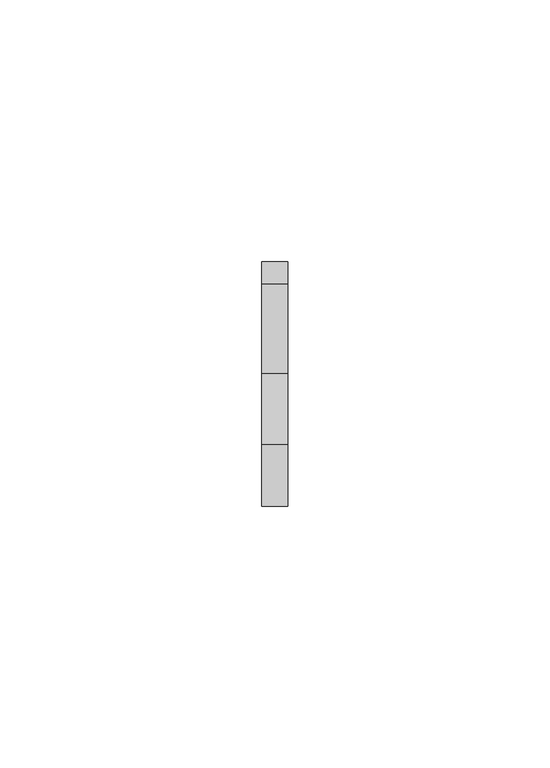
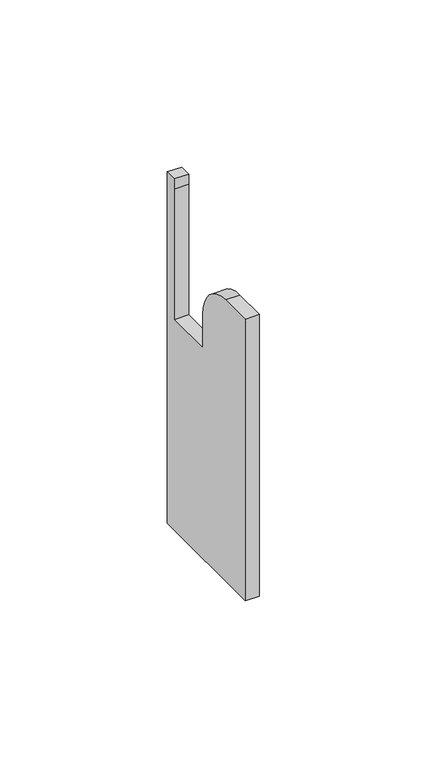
"""IFC4 building model written with IfcOpenShell, lengths in millimetres: proxy geometry, Odbojnik - OPW30R : Odbojnik - OPW30R."""

from ifc_helpers import new_model, si_unit, point, frame, frame_2d, origin, place, context, project, spatial, polyline, circle_curve, trimmed, segment, composite_curve, outline, extrude, source, transform, mapped, element, save


def generic_models_61f85244(model_context):
    return source(origin(), model_context, "Body", "SweptSolid", [
        extrude(outline(composite_curve([segment(polyline([(21.2015316, 95.3724587), (32.8815316, 95.3724587)]), True, "CONTINUOUS"), segment(trimmed(circle_curve(frame_2d((32.8815316, 81.7724587)), 13.6), [point((32.8815316, 95.3724587))], [point((46.4815316, 81.7724587))], False, "CARTESIAN"), True, "CONTINUOUS"), segment(polyline([(46.4815316, 81.7724587), (46.4815316, 69.5324587), (63.6165316, 69.5324587), (63.6165316, 117.145886), (63.6165316, 120.9080084), (67.8565316, 120.9080084), (67.8565316, 117.1386217), (67.8565316, -7.5475413), (21.2015316, -7.5475413), (21.2015316, 95.3724587)]), True, "CONTINUOUS")], self_intersect=False)), frame((-2.5, 0.0, 0.0), z_axis=(1.0, 0.0, 0.0), x_axis=(0.0, 1.0, 0.0)), (0.0, 0.0, 1.0), 5.0),
    ])


if __name__ == "__main__":
    model = new_model("IFC4")
    model_context = context("Model", 3, world=origin())
    ifc_project = project(units=[si_unit("LENGTHUNIT", "METRE", prefix="MILLI")], contexts=[model_context])
    site = spatial("IfcSite", under=ifc_project)
    building = spatial("IfcBuilding", under=site)
    placement = place(None, origin())
    generic_models_shape = generic_models_61f85244(model_context)
    element("IfcBuildingElementProxy", 1, Name="Odbojnik - OPW30R : Odbojnik - OPW30R", ObjectType="Odbojnik - OPW30R : Odbojnik - OPW30R", at=placement, inside=building, context=model_context, shape_type="MappedRepresentation", body=[
        mapped(generic_models_shape, transform((0.0, 0.0, 0.0), x_axis=(1.0, 0.0, 0.0), y_axis=(0.0, 1.0, 0.0), z_axis=(0.0, 0.0, 1.0))),
    ])
    save(model, "model.ifc")
